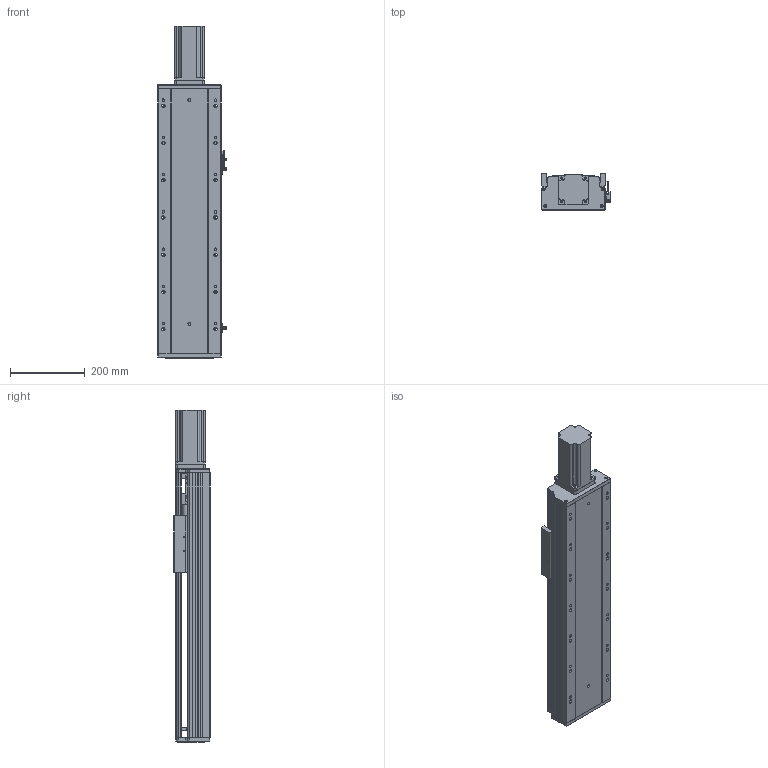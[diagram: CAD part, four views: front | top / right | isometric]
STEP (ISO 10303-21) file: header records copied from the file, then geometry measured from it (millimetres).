
FILE_DESCRIPTION (( 'STEP AP203' ), '1' );
FILE_NAME ('RY170-L2510-300-MK(FK17).SLDASM_400.step', '2022-08-23T02:00:14', ( '' ), ( '' ), 'SwSTEP 2.0', 'SolidWorks 2016', '' );
FILE_SCHEMA (( 'CONFIG_CONTROL_DESIGN' ));
Length unit declared in the file: millimetre
Products named in the file (15): 侂狟750W萇儂ㄗ80遺ㄘ; RY170-300倰第裔啣-MK_400; RY170外置感应片(200共用）; RY170电机端支撑座(25丝杆7004轴承)-压铸(FK17); 750W萇儂梓袧蛌諉啣; 侂狟400W侜督萇儂; 15; RY170-300倰第菁釱-MK_400; RY170臏賑輸25佪裝蹟譫; RY170綴裔啣; 覜茼ん672; 滅袉蝶18-28; RY170ヶ醱裔啣; RY170-L2510-300-MK(FK17).SLDASM_400; 滅袉蝶18-10
Assembly tree (16 placements, depth 3):
  RY170-L2510-300-MK(FK17).SLDASM_400
    RY170-300倰第菁釱-MK_400
    RY170-300倰第裔啣-MK_400
    RY170臏賑輸25佪裝蹟譫
    侂狟400W侜督萇儂
      15
    RY170綴裔啣
    RY170电机端支撑座(25丝杆7004轴承)-压铸(FK17)
    覜茼ん672  x3
    RY170外置感应片(200共用）
    RY170ヶ醱裔啣
    滅袉蝶18-28
    滅袉蝶18-10
    侂狟750W萇儂ㄗ80遺ㄘ
    750W萇儂梓袧蛌諉啣
Bounding box: 183.7 x 97 x 891 mm (x, y, z)
Volume: 5235811.8 mm3; surface area: 1417228.1 mm2
Topology: 15 solids, 15 shells, 2159 faces, 6175 edges, 3960 vertices
Faces by surface type: plane 1014, cylinder 894, cone 215, bspline 36
Entity records: 69771 total; most frequent: CARTESIAN_POINT 16148, ORIENTED_EDGE 11114, DIRECTION 10711, EDGE_CURVE 5557, AXIS2_PLACEMENT_3D 3712, VERTEX_POINT 3640, VECTOR 3287, LINE 3287
